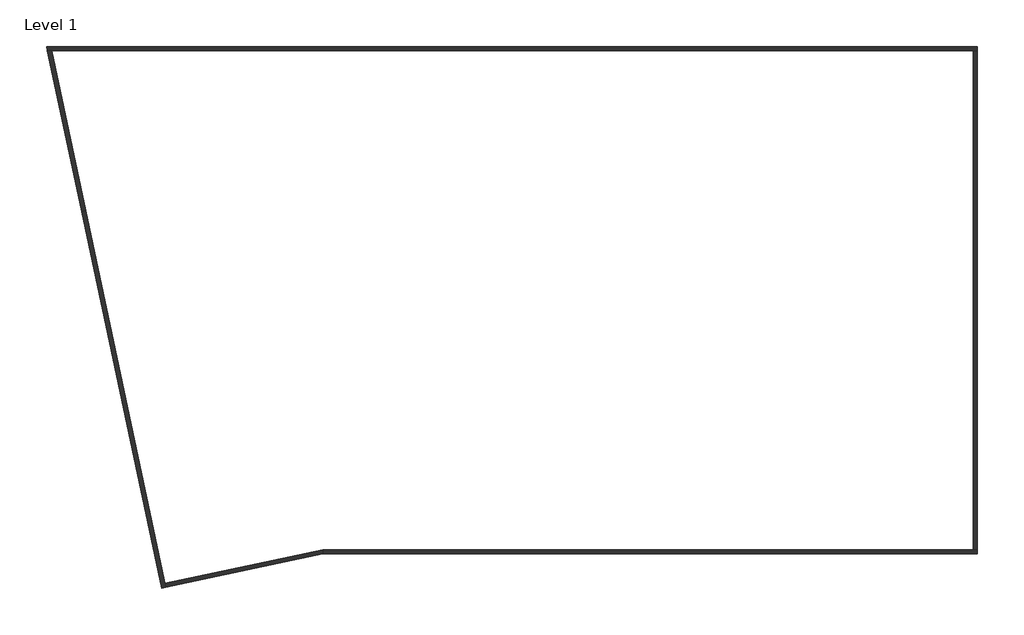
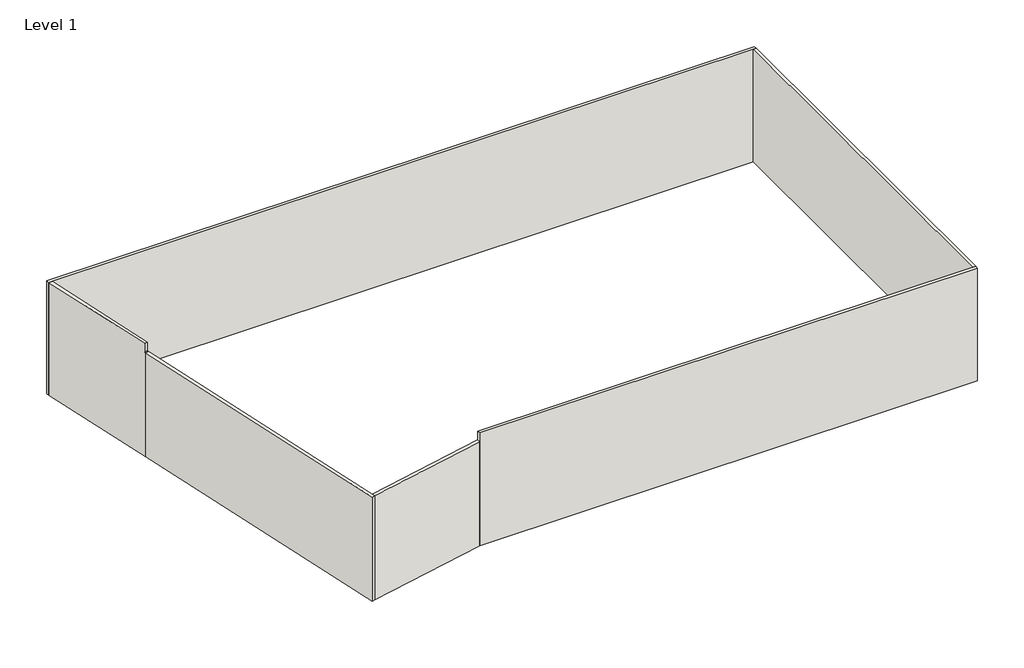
# One storey: 6 walls.
"""IFC4 building model written with IfcOpenShell, lengths in millimetres."""

from ifc_helpers import new_model, si_unit, origin, origin_with_axes, place, context, project, spatial, polyline, outline, extrude, faceted_brep, element, save

model = new_model("IFC4")

# Units and contexts
model_context = context("Model", 3, world=origin())
ifc_project = project(units=[si_unit("LENGTHUNIT", "METRE", prefix="MILLI")], contexts=[model_context])

# Site, building, storey
site = spatial("IfcSite", under=ifc_project)
building = spatial("IfcBuilding", under=site)
storey = spatial("IfcBuildingStorey", under=building, Name="Level 1", Elevation=0.0)

# Walls
placement = place(None, origin())
element("IfcWall", 1, ObjectType="Generic - 8\"", at=placement, inside=storey, context=model_context, shape_type="Brep", body=[
    faceted_brep([(-23684.5016497, 15004.1703504, 0.0), (-23476.7620409, 15004.1703504, 0.0), (23188.4344155, 15004.1703504, 0.0), (23391.6344155, 15004.1703504, 0.0), (23391.6344155, 15004.1703504, 7924.8), (23188.4344155, 15004.1703504, 7924.8), (-23476.7620409, 15004.1703504, 7924.8), (-23684.5016497, 15004.1703504, 7924.8), (-23727.6931431, 15207.3703504, 0.0), (-23727.6931431, 15207.3703504, 7924.8), (23391.6344155, 15207.3703504, 7924.8), (23391.6344155, 15207.3703504, 0.0)], [[[0, 1, 2, 3, 4, 5, 6, 7]], [[8, 9, 10, 11]], [[3, 2, 1, 0, 8, 11]], [[7, 6, 5, 4, 10, 9]], [[0, 7, 9, 8]], [[4, 3, 11, 10]]]),
])
element("IfcWall", 2, ObjectType="Generic - 8\"", at=placement, inside=storey, context=model_context, shape_type="Brep", body=[
    faceted_brep([(-17696.5760391, -12189.466752, 0.0), (-17738.8236946, -11990.7071596, 0.0), (-21752.3509742, 6891.454125, 0.0), (-21752.3509742, 6891.454125, 7315.2), (-21731.2271464, 6792.0743288, 7315.2), (-17738.8236946, -11990.7071596, 7315.2), (-17696.5760391, -12189.466752, 7315.2), (-17895.3356315, -12231.7144076, 0.0), (-17895.3356315, -12231.7144076, 7315.2), (-21929.9867389, 6749.8266732, 7315.2), (-21951.1105667, 6849.2064694, 7315.2), (-21951.1105667, 6849.2064694, 0.0)], [[[0, 1, 2, 3, 4, 5, 6]], [[7, 8, 9, 10, 11]], [[2, 1, 0, 7, 11]], [[3, 2, 11, 10]], [[6, 5, 4, 3, 10, 9, 8]], [[0, 6, 8, 7]]]),
])
element("IfcWall", 3, ObjectType="Generic - 8\"", at=placement, inside=storey, context=model_context, shape_type="SweptSolid", body=[
    extrude(outline(polyline([(-17738.8236946, -11990.7071596), (-9757.5245213, -10294.2296496), (-9736.1673407, -10497.4296496), (-17696.5760391, -12189.466752), (-17738.8236946, -11990.7071596)])), origin_with_axes(), (0.0, 0.0, 1.0), 7315.2),
])
element("IfcWall", 4, ObjectType="Generic - 8\"", at=placement, inside=storey, context=model_context, shape_type="Brep", body=[
    faceted_brep([(23391.6344155, -10294.2296496, 0.0), (23188.4344155, -10294.2296496, 0.0), (-9757.5245213, -10294.2296496, 0.0), (-9757.5245213, -10294.2296496, 7924.8), (23188.4344155, -10294.2296496, 7924.8), (23391.6344155, -10294.2296496, 7924.8), (23391.6344155, -10497.4296496, 0.0), (23391.6344155, -10497.4296496, 7924.8), (-9736.1673407, -10497.4296496, 7924.8), (-9736.1673407, -10497.4296496, 0.0)], [[[0, 1, 2, 3, 4, 5]], [[6, 7, 8, 9]], [[2, 1, 0, 6, 9]], [[5, 4, 3, 8, 7]], [[3, 2, 9, 8]], [[0, 5, 7, 6]]]),
])
element("IfcWall", 5, ObjectType="Generic - 8\"", at=placement, inside=storey, context=model_context, shape_type="Brep", body=[
    faceted_brep([(23188.4344155, 15004.1703504, 0.0), (23188.4344155, -10294.2296496, 0.0), (23188.4344155, -10294.2296496, 7315.2), (23188.4344155, -10294.2296496, 7620.0), (23188.4344155, -10294.2296496, 7924.8), (23188.4344155, 15004.1703504, 7924.8), (23188.4344155, 15004.1703504, 7620.0), (23188.4344155, 15004.1703504, 7315.2), (23391.6344155, 15004.1703504, 0.0), (23391.6344155, 15004.1703504, 7924.8), (23391.6344155, -10294.2296496, 7924.8), (23391.6344155, -10294.2296496, 0.0)], [[[0, 1, 2, 3, 4, 5, 6, 7]], [[8, 9, 10, 11]], [[1, 0, 8, 11]], [[5, 4, 10, 9]], [[4, 3, 2, 1, 11, 10]], [[0, 7, 6, 5, 9, 8]]]),
])
element("IfcWall", 6, ObjectType="Generic - 8\"", at=placement, inside=storey, context=model_context, shape_type="Brep", body=[
    faceted_brep([(-21752.3509742, 6891.454125, 0.0), (-23476.7620409, 15004.1703504, 0.0), (-23476.7620409, 15004.1703504, 7315.2), (-23476.7620409, 15004.1703504, 7620.0), (-23476.7620409, 15004.1703504, 7924.8), (-21773.474802, 6990.8339212, 7924.8), (-21773.474802, 6990.8339212, 7620.0), (-21773.474802, 6990.8339212, 7315.2), (-21752.3509742, 6891.454125, 7315.2), (-23684.5016497, 15004.1703504, 0.0), (-21951.1105667, 6849.2064694, 0.0), (-21951.1105667, 6849.2064694, 7315.2), (-21972.2343944, 6948.5862657, 7315.2), (-21972.2343944, 6948.5862657, 7924.8), (-23684.5016497, 15004.1703504, 7924.8)], [[[0, 1, 2, 3, 4, 5, 6, 7, 8]], [[9, 10, 11, 12, 13, 14]], [[1, 0, 10, 9]], [[5, 4, 14, 13]], [[1, 9, 14, 4, 3, 2]], [[10, 0, 8, 11]], [[12, 11, 8, 7]], [[5, 13, 12, 7, 6]]]),
])

save(model, "model.ifc")
